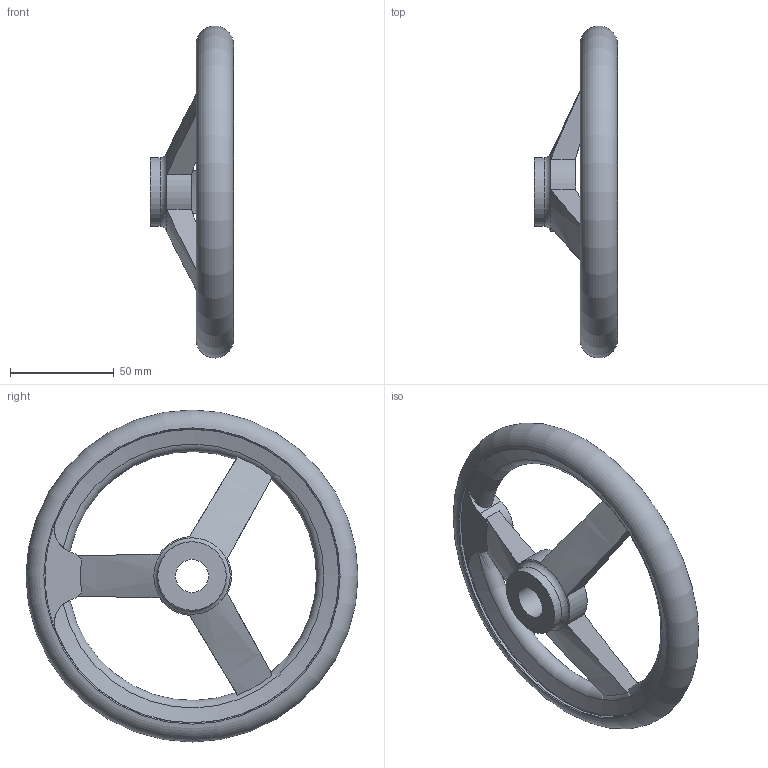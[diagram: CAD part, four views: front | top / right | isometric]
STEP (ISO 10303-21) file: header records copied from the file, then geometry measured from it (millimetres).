
FILE_DESCRIPTION( ( 'STEP AP203' ), '1' );
FILE_NAME( 'C:/Temp/Ganter_Step_05_03_2020/data/1_3/din_950/din_950_b/din_950_b_a/Handwheel DIN 950-AL-160-B16-A.stp', '2020-03-05T10:29:19', ( 'License CC BY-ND 4.0' ), ( 'CADENAS' ), ' ', 'PARTsolutions', ' ' );
FILE_SCHEMA( ( 'CONFIG_CONTROL_DESIGN' ) );
Length unit declared in the file: millimetre
Products named in the file (1): _Handwheel DIN 950-AL-160-B16-A
Bounding box: 40 x 159.99 x 159.99 mm (x, y, z)
Volume: 151057.4 mm3; surface area: 39004.7 mm2
Topology: 1 solids, 1 shells, 35 faces, 101 edges, 64 vertices
Faces by surface type: cylinder 11, plane 10, torus 10, cone 4
Full cylindrical faces by diameter (mm): 16 x1, 33 x2, 142 x2
Entity records: 1418 total; most frequent: CARTESIAN_POINT 551, ORIENTED_EDGE 166, DIRECTION 162, EDGE_CURVE 83, AXIS2_PLACEMENT_3D 76, VERTEX_POINT 61, EDGE_LOOP 53, FACE_OUTER_BOUND 47
